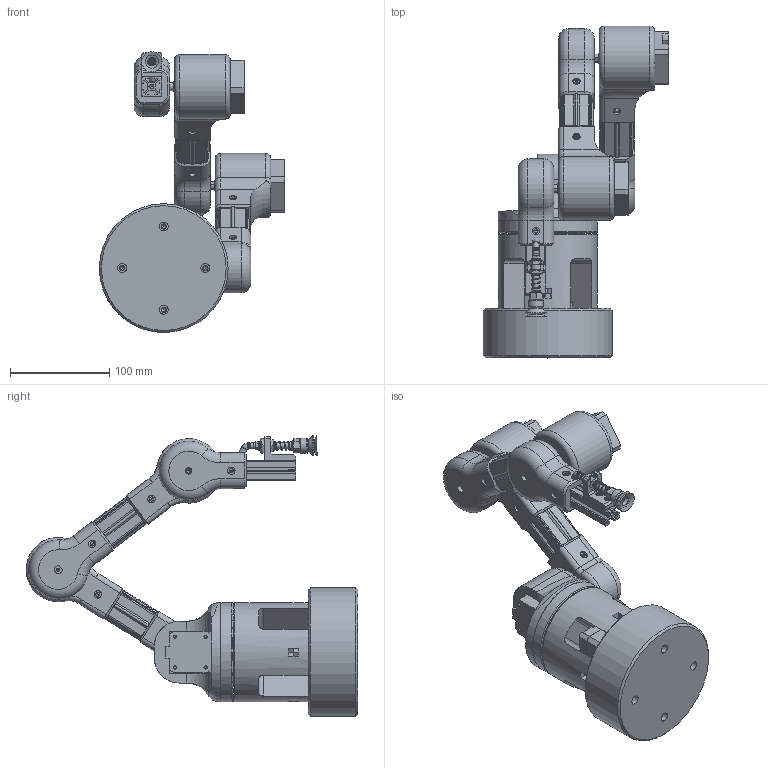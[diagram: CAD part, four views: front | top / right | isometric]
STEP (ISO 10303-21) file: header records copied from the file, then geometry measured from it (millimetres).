
FILE_DESCRIPTION(/* description */ (''),/* implementation_level */ '2;1');
FILE_NAME(/* name */ 'Assieme_robot_cicloidale3.stp',/* time_stamp */ '2026-03-24T13:42:23+01:00',/* author */ ('Ryzen5700u'),/* organization */ (''),/* preprocessor_version */ 'ST-DEVELOPER v20',/* originating_system */ 'Autodesk Inventor 2025',/* authorisation */ '');
FILE_SCHEMA (('AUTOMOTIVE_DESIGN { 1 0 10303 214 3 1 1 }'));
Length unit declared in the file: millimetre
Products named in the file (30): Assieme_robot; riduttore_cicloidale_nema17-47mm; NEMA 17; braccio1; base_ferro; ISO 104 - 1 11 50 x 70 x 14; blocco_base; disco_base1; disco_base2; tslot-20x20-100mm; blocco_nema; riduttore_cicloidale_nema17-40mm; NEMA 17-40mm; riduttore ciccloidale TS42 15-1; blocco_albero_nema; R.03.Suction Grab; R.03.01.Cup; R.03.02.Tube; R.03.03.Spring; R.03.04.Fitting; DIN 3771 - 5 x 1,8 - N - NBR 70; R.03.05.Interface; R.03.06.Nut; blocco_ventosa_profilato; tslot-20x20-ventosa; tubo_silicone; AS 1420 - 1973 - M3 x 16; Assieme_frame_tslot; frame_tslot; AS 1112 - M5  Tipo 5
Assembly tree (46 placements, depth 3):
  Assieme_robot
    riduttore_cicloidale_nema17-47mm
      NEMA 17
      riduttore ciccloidale TS42 15-1
    braccio1
    tslot-20x20-100mm  x2
    riduttore_cicloidale_nema17-40mm  x3
      NEMA 17-40mm
      riduttore ciccloidale TS42 15-1
    base_ferro
    ISO 104 - 1 11 50 x 70 x 14
    blocco_base
    disco_base1
    disco_base2
    AS 1112 - M5  Tipo 5  x8
    blocco_nema  x2
    blocco_albero_nema  x2
    R.03.Suction Grab
      R.03.01.Cup
      R.03.02.Tube
      R.03.03.Spring
      R.03.04.Fitting
      DIN 3771 - 5 x 1,8 - N - NBR 70
      R.03.05.Interface
      R.03.06.Nut
      blocco_ventosa_profilato
      tslot-20x20-ventosa
      tubo_silicone
    AS 1420 - 1973 - M3 x 16
    Assieme_frame_tslot  x2
      frame_tslot
Bounding box: 187 x 334.81 x 283.67 mm (x, y, z)
Volume: 2349475.6 mm3; surface area: 499013.9 mm2
Topology: 64 solids, 64 shells, 1688 faces, 4194 edges, 2695 vertices
Faces by surface type: plane 920, cylinder 414, cone 181, torus 106, sphere 48, bspline 19
Full cylindrical faces by diameter (mm): 2 x1, 2.459 x20, 2.5 x1, 3 x2, 3.2 x18, 3.242 x24, 3.4 x1, 4.134 x8, 4.2 x3, 4.3 x18, 4.5 x10, 5 x12, 5.25 x1, 5.3 x4, 5.5 x9, 6 x19, 6.2 x3, 6.5 x7, 7 x6, 7.5 x18, 8 x2, 9 x4, 10 x7, 15 x1, 20 x1, 22 x12, 22.2 x1, 22.5 x2, 49 x1, 50 x2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
Entity records: 29963 total; most frequent: CARTESIAN_POINT 7239, DIRECTION 4705, ORIENTED_EDGE 4304, EDGE_CURVE 2152, AXIS2_PLACEMENT_3D 1777, VERTEX_POINT 1463, LINE 1151, VECTOR 1151
